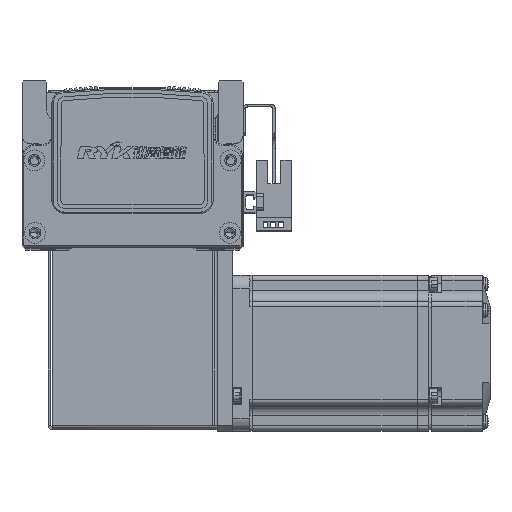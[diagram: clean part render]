
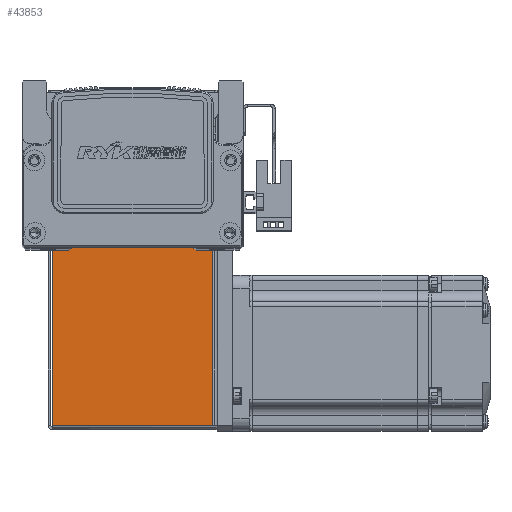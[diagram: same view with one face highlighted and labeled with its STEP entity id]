
A CAD part, top view. The second image highlights one B-rep face of the part: STEP entity #43853.
In plain terms, the highlighted planar face has unit normal (0, 0, 1).
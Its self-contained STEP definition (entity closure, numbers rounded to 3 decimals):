
#8188 = CARTESIAN_POINT ( 'NONE',  ( 0., 0., 35. ) ) ;
#8190 = DIRECTION ( 'NONE',  ( 0., 0., -1. ) ) ;
#8191 = DIRECTION ( 'NONE',  ( -1., 0., 0. ) ) ;
#8250 = PLANE ( 'NONE',  #11441 ) ;
#11441 = AXIS2_PLACEMENT_3D ( 'NONE', #8188, #8190, #8191 ) ;
#12405 = EDGE_CURVE ( 'NONE', #15282, #15182, #49685, .T. ) ;
#12413 = EDGE_CURVE ( 'NONE', #15282, #15290, #49739, .T. ) ;
#12414 = EDGE_CURVE ( 'NONE', #15182, #15368, #49744, .T. ) ;
#12421 = EDGE_CURVE ( 'NONE', #15290, #15368, #49788, .T. ) ;
#15182 = VERTEX_POINT ( 'NONE', #36224 ) ;
#15282 = VERTEX_POINT ( 'NONE', #36380 ) ;
#15290 = VERTEX_POINT ( 'NONE', #36359 ) ;
#15368 = VERTEX_POINT ( 'NONE', #36427 ) ;
#16339 = ORIENTED_EDGE ( 'NONE', *, *, #12413, .T. ) ;
#16405 = ORIENTED_EDGE ( 'NONE', *, *, #12405, .F. ) ;
#16407 = ORIENTED_EDGE ( 'NONE', *, *, #12421, .T. ) ;
#16442 = ORIENTED_EDGE ( 'NONE', *, *, #12414, .F. ) ;
#36224 = CARTESIAN_POINT ( 'NONE',  ( -30.793, 0.737, 35. ) ) ;
#36359 = CARTESIAN_POINT ( 'NONE',  ( 30.763, 72.5, 35. ) ) ;
#36380 = CARTESIAN_POINT ( 'NONE',  ( 30.763, 0.737, 35. ) ) ;
#36427 = CARTESIAN_POINT ( 'NONE',  ( -30.793, 72.5, 35. ) ) ;
#40970 = FACE_OUTER_BOUND ( 'NONE', #48452, .T. ) ;
#43853 = ADVANCED_FACE ( 'NONE', ( #40970 ), #8250, .F. ) ;
#44606 = CARTESIAN_POINT ( 'NONE',  ( -30.793, 0., 35. ) ) ;
#44609 = CARTESIAN_POINT ( 'NONE',  ( -32.5, 0.737, 35. ) ) ;
#44610 = CARTESIAN_POINT ( 'NONE',  ( 30.763, 0.737, 35. ) ) ;
#44619 = DIRECTION ( 'NONE',  ( 0., 1., 0. ) ) ;
#44624 = DIRECTION ( 'NONE',  ( -1., 0., 0. ) ) ;
#44667 = CARTESIAN_POINT ( 'NONE',  ( 0., 72.5, 35. ) ) ;
#44684 = DIRECTION ( 'NONE',  ( 0., 1., 0. ) ) ;
#44694 = DIRECTION ( 'NONE',  ( -1., 0., 0. ) ) ;
#48452 = EDGE_LOOP ( 'NONE', ( #16339, #16407, #16442, #16405 ) ) ;
#49685 = LINE ( 'NONE', #44609, #49775 ) ;
#49739 = LINE ( 'NONE', #44610, #49815 ) ;
#49744 = LINE ( 'NONE', #44606, #49769 ) ;
#49769 = VECTOR ( 'NONE', #44684, 1000. ) ;
#49775 = VECTOR ( 'NONE', #44624, 1000. ) ;
#49788 = LINE ( 'NONE', #44667, #49808 ) ;
#49808 = VECTOR ( 'NONE', #44694, 1000. ) ;
#49815 = VECTOR ( 'NONE', #44619, 1000. ) ;
